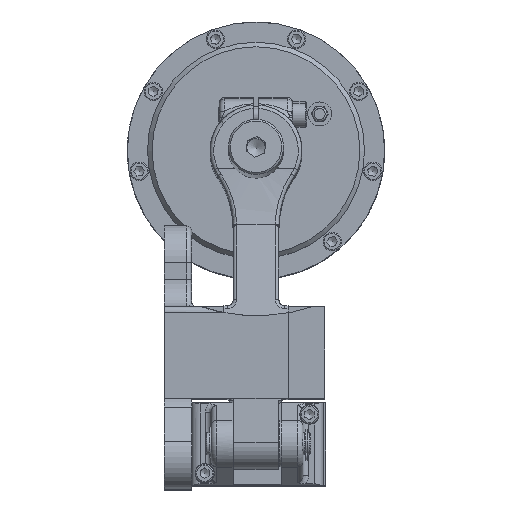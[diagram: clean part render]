
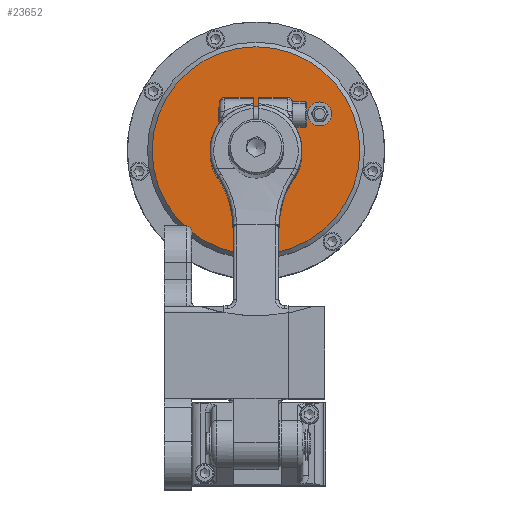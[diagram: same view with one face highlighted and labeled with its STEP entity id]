
A CAD part, top view. The second image highlights one B-rep face of the part: STEP entity #23652.
In plain terms, the highlighted planar face has unit normal (0, 0, 1).
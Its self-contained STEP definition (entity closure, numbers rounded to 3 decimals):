
#951=FACE_BOUND('',#4988,.T.);
#952=FACE_BOUND('',#4989,.T.);
#1574=CIRCLE('',#24704,23.);
#2369=CIRCLE('',#26226,56.5);
#2370=CIRCLE('',#26227,15.);
#2371=CIRCLE('',#26228,6.5);
#2372=CIRCLE('',#26229,6.5);
#3582=FACE_OUTER_BOUND('',#4987,.T.);
#4987=EDGE_LOOP('',(#20307));
#4988=EDGE_LOOP('',(#20308,#20309,#20310,#20311));
#4989=EDGE_LOOP('',(#20312,#20313));
#5574=LINE('',#38982,#7095);
#6223=LINE('',#42554,#7744);
#7095=VECTOR('',#28766,10.);
#7744=VECTOR('',#31001,10.);
#9192=VERTEX_POINT('',#38922);
#9198=VERTEX_POINT('',#38971);
#9200=VERTEX_POINT('',#38993);
#9890=VERTEX_POINT('',#42552);
#10479=VERTEX_POINT('',#44512);
#10480=VERTEX_POINT('',#44515);
#10481=VERTEX_POINT('',#44516);
#11855=EDGE_CURVE('',#9192,#9198,#5574,.T.);
#11858=EDGE_CURVE('',#9200,#9198,#1574,.T.);
#12976=EDGE_CURVE('',#9200,#9890,#6223,.T.);
#13791=EDGE_CURVE('',#10479,#10479,#2369,.T.);
#13792=EDGE_CURVE('',#9890,#9192,#2370,.T.);
#13793=EDGE_CURVE('',#10480,#10481,#2371,.T.);
#13794=EDGE_CURVE('',#10481,#10480,#2372,.T.);
#20307=ORIENTED_EDGE('',*,*,#13791,.F.);
#20308=ORIENTED_EDGE('',*,*,#12976,.T.);
#20309=ORIENTED_EDGE('',*,*,#13792,.T.);
#20310=ORIENTED_EDGE('',*,*,#11855,.T.);
#20311=ORIENTED_EDGE('',*,*,#11858,.F.);
#20312=ORIENTED_EDGE('',*,*,#13793,.T.);
#20313=ORIENTED_EDGE('',*,*,#13794,.T.);
#21337=PLANE('',#26225);
#23652=ADVANCED_FACE('',(#3582,#951,#952),#21337,.T.);
#24704=AXIS2_PLACEMENT_3D('',#39004,#28771,#28772);
#26225=AXIS2_PLACEMENT_3D('',#44511,#32745,#32746);
#26226=AXIS2_PLACEMENT_3D('',#44513,#32747,#32748);
#26227=AXIS2_PLACEMENT_3D('',#44514,#32749,#32750);
#26228=AXIS2_PLACEMENT_3D('',#44517,#32751,#32752);
#26229=AXIS2_PLACEMENT_3D('',#44518,#32753,#32754);
#28766=DIRECTION('',(0.,1.,0.));
#28771=DIRECTION('center_axis',(0.,0.,
1.));
#28772=DIRECTION('ref_axis',(0.,-1.,0.));
#31001=DIRECTION('',(0.,-1.,0.));
#32745=DIRECTION('center_axis',(0.,0.,
1.));
#32746=DIRECTION('ref_axis',(0.5,-0.866,0.));
#32747=DIRECTION('center_axis',(0.,0.,
-1.));
#32748=DIRECTION('ref_axis',(-0.866,-0.5,0.));
#32749=DIRECTION('center_axis',(0.,0.,
-1.));
#32750=DIRECTION('ref_axis',(0.866,0.5,0.));
#32751=DIRECTION('center_axis',(0.,0.,
-1.));
#32752=DIRECTION('ref_axis',(0.5,-0.866,0.));
#32753=DIRECTION('center_axis',(0.,0.,
-1.));
#32754=DIRECTION('ref_axis',(0.5,-0.866,0.));
#38922=CARTESIAN_POINT('',(51.5,149.925,-45.5));
#38971=CARTESIAN_POINT('',(51.5,157.951,-45.5));
#38982=CARTESIAN_POINT('',(51.5,163.884,-45.5));
#38993=CARTESIAN_POINT('',(48.5,157.951,-45.5));
#39004=CARTESIAN_POINT('Origin',(50.,135.,-45.5));
#42552=CARTESIAN_POINT('',(48.5,149.925,-45.5));
#42554=CARTESIAN_POINT('',(48.5,153.081,-45.5));
#44511=CARTESIAN_POINT('Origin',(82.043,153.5,-45.5));
#44512=CARTESIAN_POINT('',(98.93,163.25,-45.5));
#44513=CARTESIAN_POINT('Origin',(50.,135.,-45.5));
#44514=CARTESIAN_POINT('Origin',(50.,135.,-45.5));
#44515=CARTESIAN_POINT('',(87.891,149.371,-45.5));
#44516=CARTESIAN_POINT('',(81.391,160.629,-45.5));
#44517=CARTESIAN_POINT('Origin',(84.641,155.,-45.5));
#44518=CARTESIAN_POINT('Origin',(84.641,155.,-45.5));
